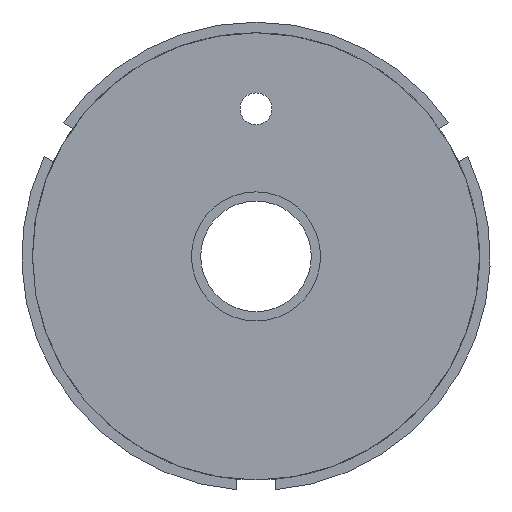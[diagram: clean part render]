
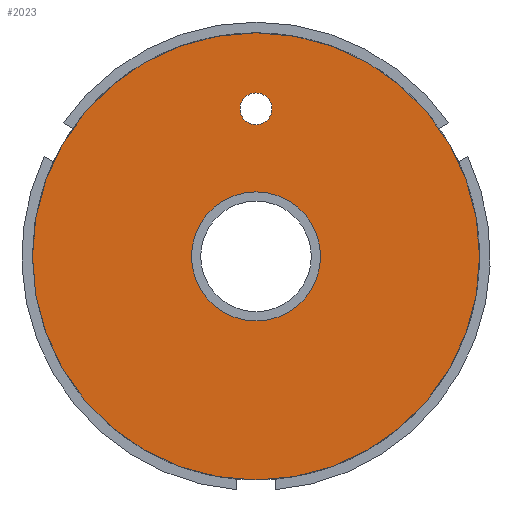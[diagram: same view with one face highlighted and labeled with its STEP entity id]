
A CAD part, left-side view. The second image highlights one B-rep face of the part: STEP entity #2023.
In plain terms, the highlighted planar face has unit normal (-1, 0, 0).
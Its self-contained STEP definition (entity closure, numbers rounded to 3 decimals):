
#1765 = CYLINDRICAL_SURFACE('',#1766,2.6);
#1766 = AXIS2_PLACEMENT_3D('',#1767,#1768,#1769);
#1767 = CARTESIAN_POINT('',(-31.5,0.,24.));
#1768 = DIRECTION('',(1.,0.,0.));
#1769 = DIRECTION('',(-0.,0.,1.));
#1896 = VERTEX_POINT('',#1897);
#1897 = CARTESIAN_POINT('',(18.9,0.,26.6));
#1918 = EDGE_CURVE('',#1896,#1896,#1919,.T.);
#1919 = SURFACE_CURVE('',#1920,(#1925,#1932),.PCURVE_S1.);
#1920 = CIRCLE('',#1921,2.6);
#1921 = AXIS2_PLACEMENT_3D('',#1922,#1923,#1924);
#1922 = CARTESIAN_POINT('',(18.9,0.,24.));
#1923 = DIRECTION('',(1.,0.,0.));
#1924 = DIRECTION('',(-0.,0.,1.));
#1925 = PCURVE('',#1765,#1926);
#1926 = DEFINITIONAL_REPRESENTATION('',(#1927),#1931);
#1927 = LINE('',#1928,#1929);
#1928 = CARTESIAN_POINT('',(0.,50.4));
#1929 = VECTOR('',#1930,1.);
#1930 = DIRECTION('',(1.,0.));
#1931 = ( GEOMETRIC_REPRESENTATION_CONTEXT(2) 
PARAMETRIC_REPRESENTATION_CONTEXT() REPRESENTATION_CONTEXT('2D SPACE',''
  ) );
#1932 = PCURVE('',#1933,#1938);
#1933 = PLANE('',#1934);
#1934 = AXIS2_PLACEMENT_3D('',#1935,#1936,#1937);
#1935 = CARTESIAN_POINT('',(18.9,0.,0.)
  );
#1936 = DIRECTION('',(1.,0.,0.));
#1937 = DIRECTION('',(-0.,0.,1.));
#1938 = DEFINITIONAL_REPRESENTATION('',(#1939),#1943);
#1939 = CIRCLE('',#1940,2.6);
#1940 = AXIS2_PLACEMENT_2D('',#1941,#1942);
#1941 = CARTESIAN_POINT('',(24.,0.));
#1942 = DIRECTION('',(1.,0.));
#1943 = ( GEOMETRIC_REPRESENTATION_CONTEXT(2) 
PARAMETRIC_REPRESENTATION_CONTEXT() REPRESENTATION_CONTEXT('2D SPACE',''
  ) );
#1970 = CYLINDRICAL_SURFACE('',#1971,36.375);
#1971 = AXIS2_PLACEMENT_3D('',#1972,#1973,#1974);
#1972 = CARTESIAN_POINT('',(18.9,0.,0.));
#1973 = DIRECTION('',(-1.,-0.,-0.));
#1974 = DIRECTION('',(0.,1.,0.));
#2023 = ADVANCED_FACE('',(#2024,#2050,#2085),#1933,.F.);
#2024 = FACE_BOUND('',#2025,.F.);
#2025 = EDGE_LOOP('',(#2026));
#2026 = ORIENTED_EDGE('',*,*,#2027,.T.);
#2027 = EDGE_CURVE('',#2028,#2028,#2030,.T.);
#2028 = VERTEX_POINT('',#2029);
#2029 = CARTESIAN_POINT('',(18.9,36.375,0.));
#2030 = SURFACE_CURVE('',#2031,(#2036,#2043),.PCURVE_S1.);
#2031 = CIRCLE('',#2032,36.375);
#2032 = AXIS2_PLACEMENT_3D('',#2033,#2034,#2035);
#2033 = CARTESIAN_POINT('',(18.9,0.,0.));
#2034 = DIRECTION('',(1.,0.,0.));
#2035 = DIRECTION('',(0.,1.,0.));
#2036 = PCURVE('',#1933,#2037);
#2037 = DEFINITIONAL_REPRESENTATION('',(#2038),#2042);
#2038 = CIRCLE('',#2039,36.375);
#2039 = AXIS2_PLACEMENT_2D('',#2040,#2041);
#2040 = CARTESIAN_POINT('',(0.,0.));
#2041 = DIRECTION('',(0.,-1.));
#2042 = ( GEOMETRIC_REPRESENTATION_CONTEXT(2) 
PARAMETRIC_REPRESENTATION_CONTEXT() REPRESENTATION_CONTEXT('2D SPACE',''
  ) );
#2043 = PCURVE('',#1970,#2044);
#2044 = DEFINITIONAL_REPRESENTATION('',(#2045),#2049);
#2045 = LINE('',#2046,#2047);
#2046 = CARTESIAN_POINT('',(-0.,0.));
#2047 = VECTOR('',#2048,1.);
#2048 = DIRECTION('',(-1.,0.));
#2049 = ( GEOMETRIC_REPRESENTATION_CONTEXT(2) 
PARAMETRIC_REPRESENTATION_CONTEXT() REPRESENTATION_CONTEXT('2D SPACE',''
  ) );
#2050 = FACE_BOUND('',#2051,.F.);
#2051 = EDGE_LOOP('',(#2052));
#2052 = ORIENTED_EDGE('',*,*,#2053,.T.);
#2053 = EDGE_CURVE('',#2054,#2054,#2056,.T.);
#2054 = VERTEX_POINT('',#2055);
#2055 = CARTESIAN_POINT('',(18.9,10.5,0.));
#2056 = SURFACE_CURVE('',#2057,(#2062,#2073),.PCURVE_S1.);
#2057 = CIRCLE('',#2058,10.5);
#2058 = AXIS2_PLACEMENT_3D('',#2059,#2060,#2061);
#2059 = CARTESIAN_POINT('',(18.9,0.,0.));
#2060 = DIRECTION('',(-1.,0.,0.));
#2061 = DIRECTION('',(0.,1.,0.));
#2062 = PCURVE('',#1933,#2063);
#2063 = DEFINITIONAL_REPRESENTATION('',(#2064),#2072);
#2064 = ( BOUNDED_CURVE() B_SPLINE_CURVE(2,(#2065,#2066,#2067,#2068,
#2069,#2070,#2071),.UNSPECIFIED.,.T.,.F.) B_SPLINE_CURVE_WITH_KNOTS((1,2
    ,2,2,2,1),(-2.094,0.,2.094,4.189,
6.283,8.378),.UNSPECIFIED.) CURVE() 
GEOMETRIC_REPRESENTATION_ITEM() RATIONAL_B_SPLINE_CURVE((1.,0.5,1.,0.5,
1.,0.5,1.)) REPRESENTATION_ITEM('') );
#2065 = CARTESIAN_POINT('',(0.,-10.5));
#2066 = CARTESIAN_POINT('',(-18.187,-10.5));
#2067 = CARTESIAN_POINT('',(-9.093,5.25));
#2068 = CARTESIAN_POINT('',(0.,21.));
#2069 = CARTESIAN_POINT('',(9.093,5.25));
#2070 = CARTESIAN_POINT('',(18.187,-10.5));
#2071 = CARTESIAN_POINT('',(0.,-10.5));
#2072 = ( GEOMETRIC_REPRESENTATION_CONTEXT(2) 
PARAMETRIC_REPRESENTATION_CONTEXT() REPRESENTATION_CONTEXT('2D SPACE',''
  ) );
#2073 = PCURVE('',#2074,#2079);
#2074 = CYLINDRICAL_SURFACE('',#2075,10.5);
#2075 = AXIS2_PLACEMENT_3D('',#2076,#2077,#2078);
#2076 = CARTESIAN_POINT('',(17.9,0.,0.));
#2077 = DIRECTION('',(-1.,-0.,-0.));
#2078 = DIRECTION('',(0.,1.,0.));
#2079 = DEFINITIONAL_REPRESENTATION('',(#2080),#2084);
#2080 = LINE('',#2081,#2082);
#2081 = CARTESIAN_POINT('',(-6.283,-1.));
#2082 = VECTOR('',#2083,1.);
#2083 = DIRECTION('',(1.,-0.));
#2084 = ( GEOMETRIC_REPRESENTATION_CONTEXT(2) 
PARAMETRIC_REPRESENTATION_CONTEXT() REPRESENTATION_CONTEXT('2D SPACE',''
  ) );
#2085 = FACE_BOUND('',#2086,.F.);
#2086 = EDGE_LOOP('',(#2087));
#2087 = ORIENTED_EDGE('',*,*,#1918,.F.);
